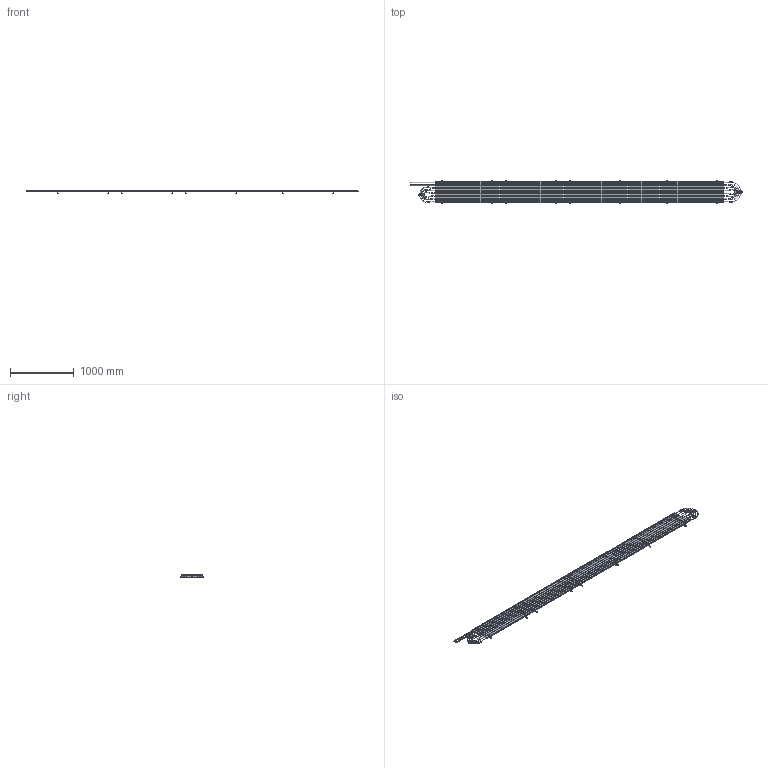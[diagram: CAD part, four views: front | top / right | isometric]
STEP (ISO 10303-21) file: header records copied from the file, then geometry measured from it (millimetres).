
FILE_DESCRIPTION (( 'STEP AP214' ), '1' );
FILE_NAME ('AP 450.STEP', '2021-04-13T07:22:05', ( '' ), ( '' ), 'SwSTEP 2.0', 'SolidWorks 2019', '' );
FILE_SCHEMA (( 'AUTOMOTIVE_DESIGN' ));
Length unit declared in the file: millimetre
Products named in the file (18): G54R2_ref_lemez_hf_p_4valyu_500mm__2qqq; P003 - Termék; G54R2_ref_lemez_hf_p_4valyu_500mm__2qqq_334x4500; AP 450; cs饘esb嫕at_4,5; P003 - Termék_Felhajtott; Fésû; cs饘esb嫕at; F駸獷3; F駸獷4
Assembly tree (12 placements, depth 2):
  G54R2_ref_lemez_hf_p_4valyu_500mm__2qqq
  P003 - Termék
  P003 - Termék
  P003 - Termék
  AP 450
    G54R2_ref_lemez_hf_p_4valyu_500mm__2qqq_334x4500
    cs饘esb嫕at_4,5
    P003 - Termék_Felhajtott  x8
    F駸獷4
    F駸獷3
Bounding box: 5210 x 362 x 37.5 mm (x, y, z)
Volume: 1753292.1 mm3; surface area: 6983463.5 mm2
Topology: 16 solids, 16 shells, 2442 faces, 6670 edges, 4260 vertices
Faces by surface type: cylinder 1179, plane 1043, torus 140, bspline 80
Entity records: 34058 total; most frequent: CARTESIAN_POINT 6612, DIRECTION 6044, ORIENTED_EDGE 5612, EDGE_CURVE 2806, AXIS2_PLACEMENT_3D 2244, VERTEX_POINT 1796, VECTOR 1556, LINE 1556
